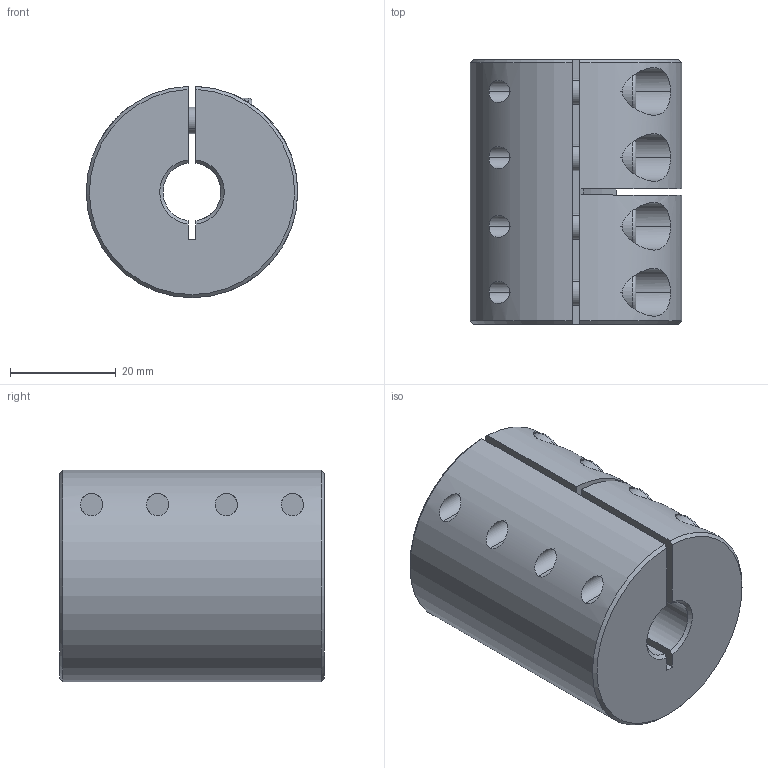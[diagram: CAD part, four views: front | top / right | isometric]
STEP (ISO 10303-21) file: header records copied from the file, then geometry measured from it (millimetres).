
FILE_DESCRIPTION (( 'STEP AP214' ), '1' );
FILE_NAME ('LL-B-D40L50-11-11½¨Ä£.STEP', '2022-07-22T00:18:57', ( '' ), ( '' ), 'SwSTEP 2.0', 'SolidWorks 2022', '' );
FILE_SCHEMA (( 'AUTOMOTIVE_DESIGN' ));
Length unit declared in the file: millimetre
Products named in the file (1): LL-B-D40L50-11-11膘耀
Bounding box: 40 x 50 x 39.99 mm (x, y, z)
Volume: 54642.6 mm3; surface area: 15435.4 mm2
Topology: 1 solids, 1 shells, 178 faces, 451 edges, 283 vertices
Faces by surface type: plane 86, cylinder 69, cone 15, torus 8
Entity records: 5878 total; most frequent: CARTESIAN_POINT 1501, DIRECTION 946, ORIENTED_EDGE 886, EDGE_CURVE 443, AXIS2_PLACEMENT_3D 368, VERTEX_POINT 283, EDGE_LOOP 210, LINE 210
